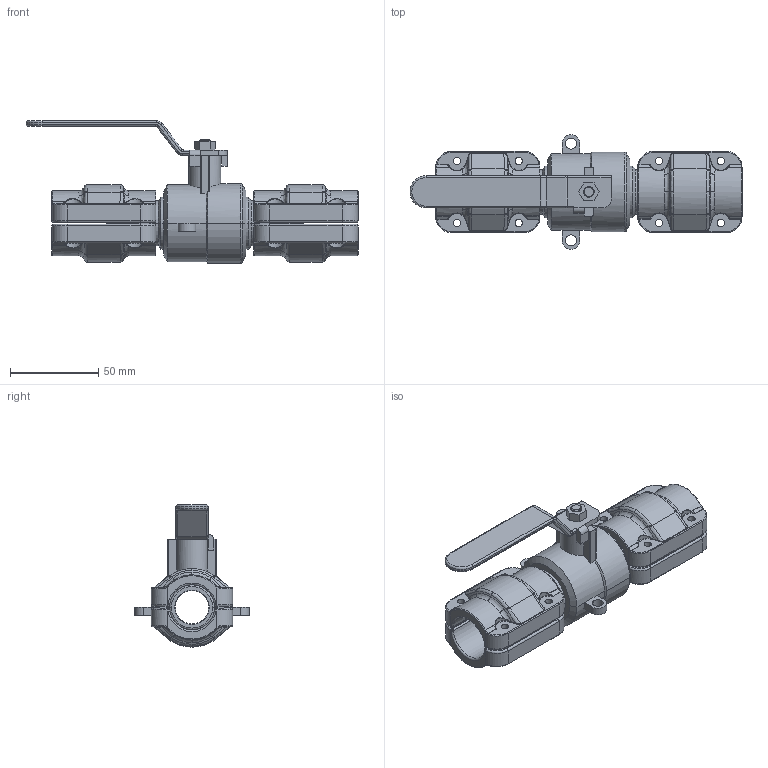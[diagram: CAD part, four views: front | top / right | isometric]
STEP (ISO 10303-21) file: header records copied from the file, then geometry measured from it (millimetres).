
FILE_DESCRIPTION((''),'2;1');
FILE_NAME('2015205199_ASM','2017-05-13T',('li'),(''),'PRO/ENGINEER BY PARAMETRIC TECHNOLOGY CORPORATION, 2009360','PRO/ENGINEER BY PARAMETRIC TECHNOLOGY CORPORATION, 2009360','');
FILE_SCHEMA(('AUTOMOTIVE_DESIGN { 1 0 10303 214 1 1 1 1 }'));
Length unit declared in the file: millimetre
Products named in the file (5): 2015205100; 201520020000_23; 201520020001_10; 2015200200_ASM; 2015205199_ASM
Assembly tree (5 placements, depth 3):
  2015205199_ASM
    2015205100
    2015200200_ASM  x2
      201520020000_23
      201520020001_10
Bounding box: 187.85 x 64.76 x 80.5 mm (x, y, z)
Volume: 155193.4 mm3; surface area: 67790.7 mm2
Topology: 5 solids, 5 shells, 791 faces, 1852 edges, 1079 vertices
Faces by surface type: bspline 288, cylinder 257, plane 107, torus 94, cone 29, sphere 16
Entity records: 22381 total; most frequent: CARTESIAN_POINT 8711, ORIENTED_EDGE 2240, DIRECTION 1867, PRESENTATION_STYLE_ASSIGNMENT 1123, STYLED_ITEM 1123, CURVE_STYLE 1120, EDGE_CURVE 1120, AXIS2_PLACEMENT_3D 755
